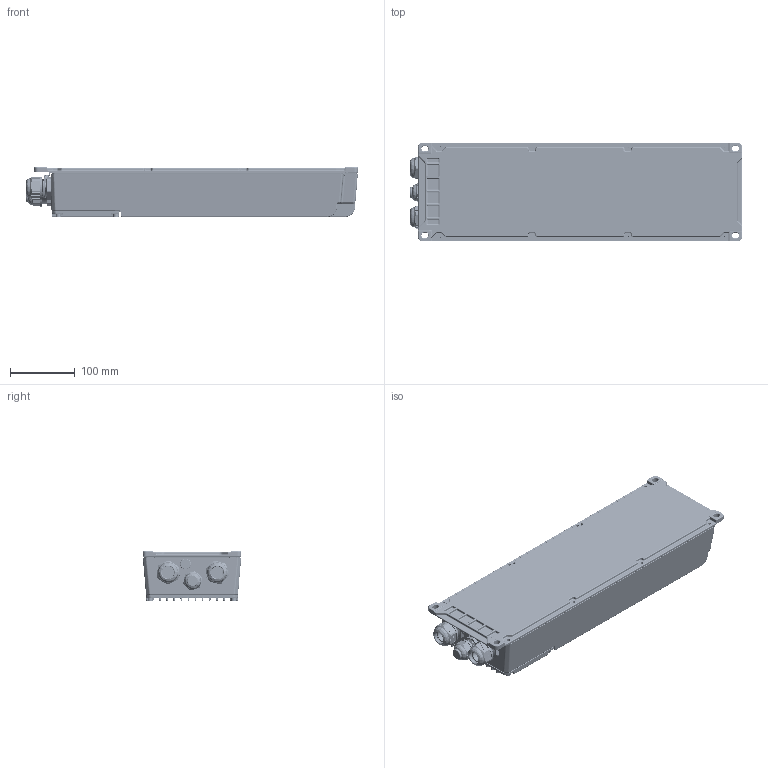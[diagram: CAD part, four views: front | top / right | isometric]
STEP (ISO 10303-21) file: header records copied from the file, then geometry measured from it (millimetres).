
FILE_DESCRIPTION (( 'STEP AP203' ), '1' );
FILE_NAME ('1KW 3D.STEP', '2021-09-01T02:13:55', ( '' ), ( '' ), 'SwSTEP 2.0', 'SolidWorks 2016', '' );
FILE_SCHEMA (( 'CONFIG_CONTROL_DESIGN' ));
Length unit declared in the file: millimetre
Products named in the file (23): D4249S-2-E14(1.1) MGA-20LD-14.3_(模具電鍍)_1; EH523 MGA-20HE_1; C0059 MGB-25CTR; MG25A-18B-ST-6; M20-SR-13; PUWM12x1.5-10; M20  PLUG; M25-SR-13; P729F-E18(0) MBA-20FH-22.5; 1KW 3D; AVC-STP_MG20A-14B-ST-V0F1_(rev.8.2)_for AA08_台達(杭州)_060519_1_2; 399213570000; EH528 FGA-26HE(新模); 399213520000; SCREW-M4-anti-falling; C0045 PGA-16CT_2; A1054 MGB-25A_2; 399213530000; D4446S-1-E17(0) FGA-26HD-18.7_(模具老化,開新模); P724F-E20(0) MBA-20FH-17.6_1; B1150 MGA-20BUE-ST_2; A1044 MGB-20A_2; B1157 MGA-25BU-ST_2
Assembly tree (26 placements, depth 4):
  1KW 3D
    399213520000
    399213530000
    399213570000
    M20-SR-13
      AVC-STP_MG20A-14B-ST-V0F1_(rev.8.2)_for AA08_台達(杭州)_060519_1_2
        A1044 MGB-20A_2
        P724F-E20(0) MBA-20FH-17.6_1
        B1150 MGA-20BUE-ST_2
        D4249S-2-E14(1.1) MGA-20LD-14.3_(模具電鍍)_1
        EH523 MGA-20HE_1
        C0045 PGA-16CT_2
    M25-SR-13  x2
      MG25A-18B-ST-6
        A1054 MGB-25A_2
        P729F-E18(0) MBA-20FH-22.5
        B1157 MGA-25BU-ST_2
        EH528 FGA-26HE(新模)
        C0059 MGB-25CTR
        D4446S-1-E17(0) FGA-26HD-18.7_(模具老化,開新模)
    PUWM12x1.5-10
    SCREW-M4-anti-falling  x4
    M20  PLUG
Bounding box: 513.17 x 152.44 x 77 mm (x, y, z)
Volume: 1258366.4 mm3; surface area: 754757.8 mm2
Topology: 26 solids, 29 shells, 8347 faces, 21103 edges, 12696 vertices
Faces by surface type: plane 3595, cylinder 2461, bspline 1635, sphere 277, cone 272, torus 107
Full cylindrical faces by diameter (mm): 2.8 x4, 3 x7, 3.2 x52, 3.5 x2, 4 x13, 4.5 x8, 5 x6, 5.5 x4, 8 x8, 9 x1, 9.4 x1, 10 x4, 10.7 x1, 12 x7, 12.4 x1, 14.3 x2, 14.4 x1, 14.5 x1, 16.8 x1, 17.1 x1, 17.52 x1, 17.6 x1, 17.8 x2, 18 x1, 18.7 x2, 19 x2, 19.1 x2, 20 x1, 20.2 x1, 20.3 x2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
Entity records: 291201 total; most frequent: CARTESIAN_POINT 138406, ORIENTED_EDGE 34507, DIRECTION 27345, EDGE_CURVE 17292, VERTEX_POINT 10442, AXIS2_PLACEMENT_3D 9551, LINE 8243, VECTOR 8243
